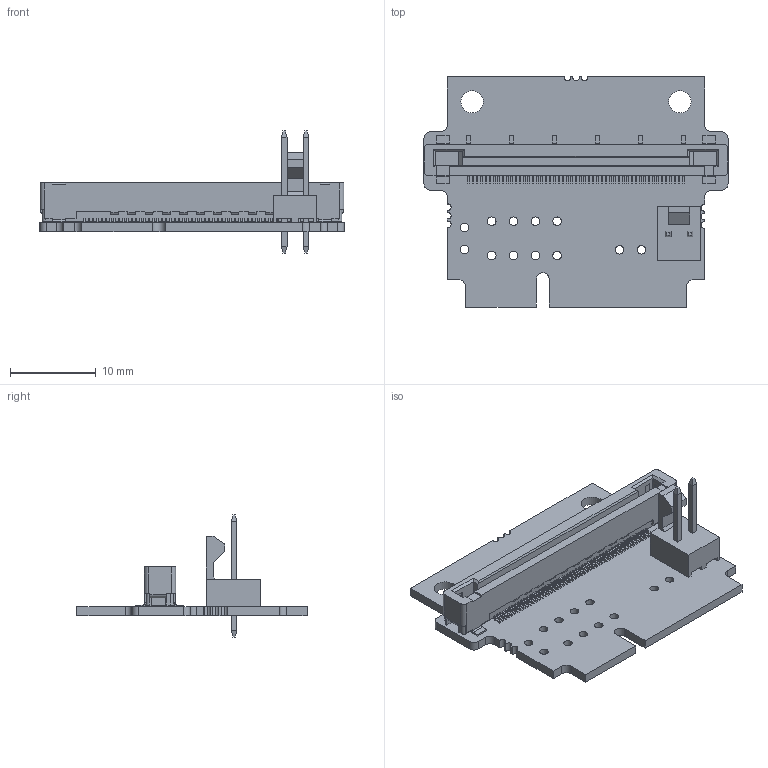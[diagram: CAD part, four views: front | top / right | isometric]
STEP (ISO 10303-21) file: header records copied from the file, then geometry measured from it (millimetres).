
FILE_DESCRIPTION(/* description */ ('step model'),/* implementation_level */ '2;1');
FILE_NAME(/* name */ 'ADPT-MX-X4G2-MINI-PCIE-FV.stp',/* time_stamp */ '2017-09-04T14:37:41+02:00',/* author */ ('Spano'),/* organization */ ('Ximea'),/* preprocessor_version */ 'ST-DEVELOPER v16',/* originating_system */ 'SIEMENS PLM Software NX 11.0',/* authorisation */ '');
FILE_SCHEMA (('AUTOMOTIVE_DESIGN { 1 0 10303 214 3 1 1 1 }'));
Length unit declared in the file: millimetre
Products named in the file (1): ADPT-MX-X4G2-MINI-PCIE-FV
Bounding box: 35.4 x 26.8 x 14.22 mm (x, y, z)
Volume: 1425.4 mm3; surface area: 2930.9 mm2
Topology: 5 solids, 5 shells, 977 faces, 2724 edges, 1806 vertices
Faces by surface type: plane 663, cylinder 314
Full cylindrical faces by diameter (mm): 1 x14, 2.6 x2
Entity records: 31461 total; most frequent: CARTESIAN_POINT 5628, ORIENTED_EDGE 5448, DIRECTION 5296, EDGE_CURVE 2724, LINE 2068, VECTOR 2068, VERTEX_POINT 1806, AXIS2_PLACEMENT_3D 1614
